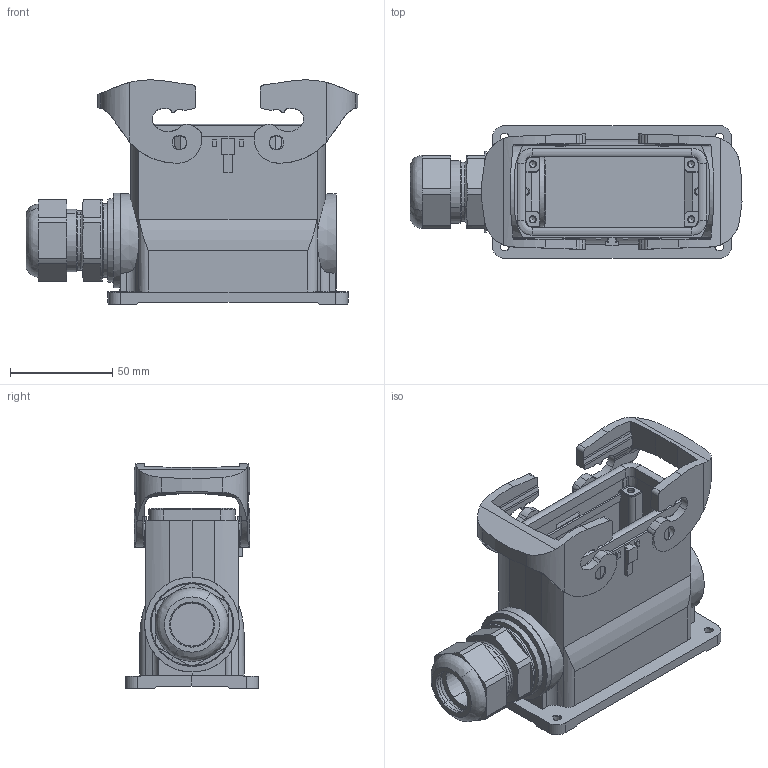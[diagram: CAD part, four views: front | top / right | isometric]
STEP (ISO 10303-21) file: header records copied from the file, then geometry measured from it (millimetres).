
FILE_DESCRIPTION(/* description */ (''),/* implementation_level */ '2;1');
FILE_NAME(/* name */ '100751471ugm000_b.stp',/* time_stamp */ '2022-03-12T06:05:27+01:00',/* author */ (''),/* organization */ (''),/* preprocessor_version */ 'ST-DEVELOPER v16.7',/* originating_system */ 'SIEMENS PLM Software NX 1911',/* authorisation */ '');
FILE_SCHEMA (('AUTOMOTIVE_DESIGN { 1 0 10303 214 3 1 1 1 }'));
Length unit declared in the file: millimetre
Products named in the file (1): 100751471ugm000_b
Bounding box: 162.38 x 65 x 109.79 mm (x, y, z)
Volume: 231831.4 mm3; surface area: 92527.9 mm2
Topology: 3 solids, 3 shells, 833 faces, 2486 edges, 1852 vertices
Faces by surface type: plane 500, cylinder 214, cone 94, revolution 10, bspline 6, torus 5, extrusion 4
Full cylindrical faces by diameter (mm): 1.594 x1, 1.884 x1, 3 x4, 3.4 x4, 3.5 x4, 7.2 x4, 30 x1, 32 x1, 36 x1, 46.4 x1
Entity records: 34808 total; most frequent: CARTESIAN_POINT 6261, DIRECTION 4568, ORIENTED_EDGE 4510, EDGE_CURVE 2255, AXIS2_PLACEMENT_3D 1530, VERTEX_POINT 1504, VECTOR 1498, LINE 1494
